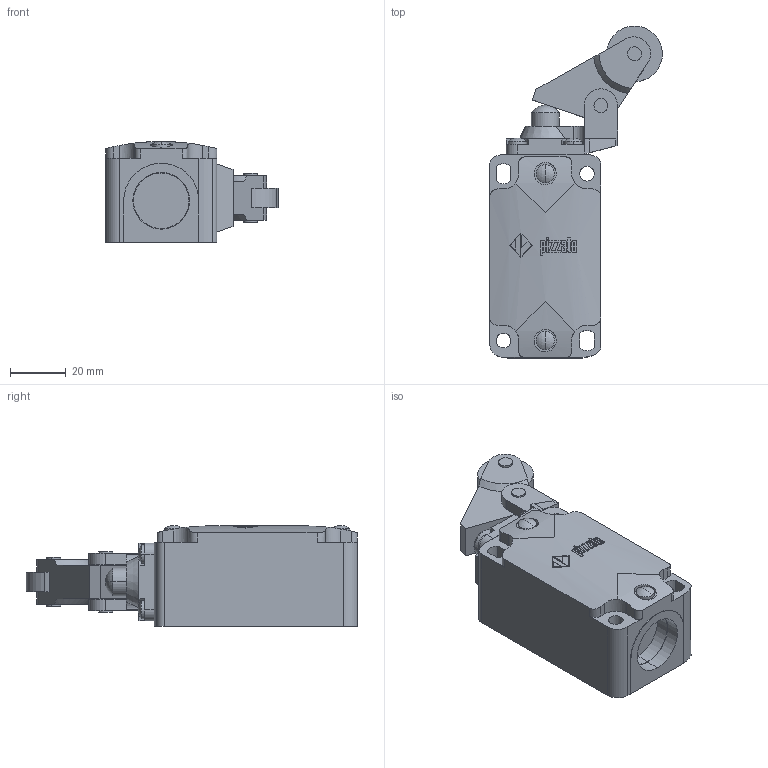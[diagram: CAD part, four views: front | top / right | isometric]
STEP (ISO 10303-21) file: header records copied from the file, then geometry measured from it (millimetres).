
FILE_DESCRIPTION (( 'STEP AP214' ), '1' );
FILE_NAME ('ZF_STEP_FD_x05_A10.step', '2014-04-10T08:57:44', ( 'utente' ), ( 'Microsoft' ), 'SwSTEP 2.0', 'SolidWorks 2013', '' );
FILE_SCHEMA (( 'AUTOMOTIVE_DESIGN' ));
Length unit declared in the file: millimetre
Products named in the file (6): ZF_STEP_FD_x05_A10; ZF_STEP_VF_T05_A10; Pizzato_Pistoncino_T01; Pizzato_Leva_T05_351; Pizzato_Supporto_T02_Supporto_T02; Pizzato_Custodia_FD
Assembly tree (5 placements, depth 3):
  ZF_STEP_FD_x05_A10
    Pizzato_Custodia_FD
    ZF_STEP_VF_T05_A10
      Pizzato_Supporto_T02_Supporto_T02
      Pizzato_Leva_T05_351
      Pizzato_Pistoncino_T01
Bounding box: 62.1 x 119.3 x 36.3 mm (x, y, z)
Volume: 112776.4 mm3; surface area: 25983.4 mm2
Topology: 4 solids, 4 shells, 469 faces, 1240 edges, 826 vertices
Faces by surface type: plane 258, cylinder 97, bspline 97, sphere 14, cone 3
Entity records: 19893 total; most frequent: CARTESIAN_POINT 8572, ORIENTED_EDGE 2480, DIRECTION 1980, EDGE_CURVE 1240, VERTEX_POINT 826, VECTOR 738, LINE 738, AXIS2_PLACEMENT_3D 621
